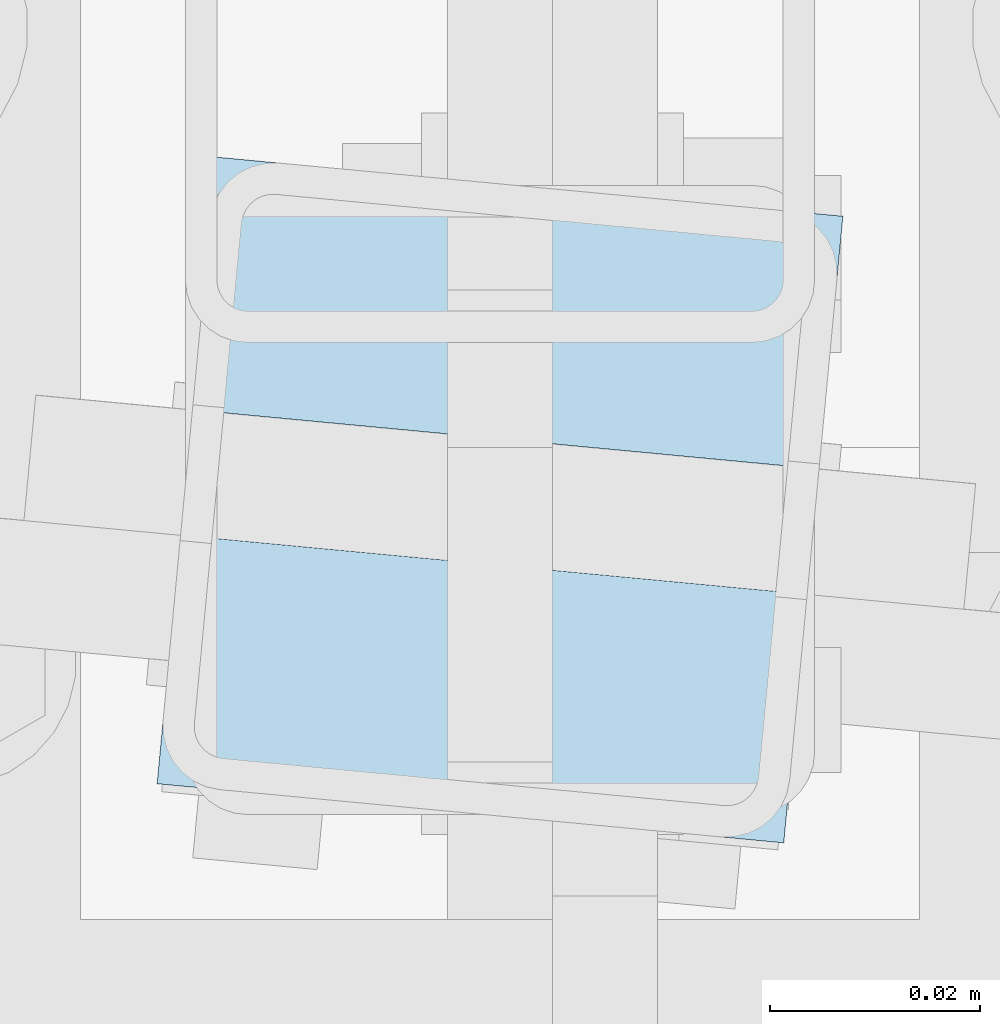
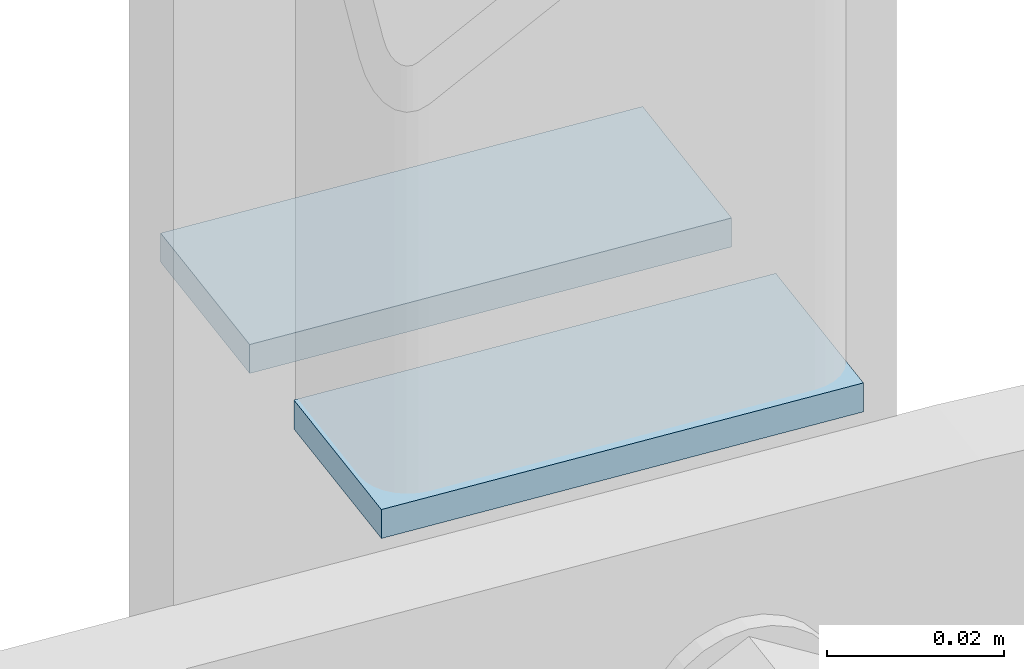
# One storey, part 208 of 271: 2 plates, 1 element without a shape of its own.
"""IFC2X3 building model written with IfcOpenShell, lengths in millimetres."""

from ifc_helpers import new_model, si_unit, frame, origin_with_axes, place, context, subcontext, project, spatial, polyline, outline, extrude, material, type_object, element, aggregate, save


model = new_model("IFC2X3")

# Units and contexts
model_context = context("Model", 3, precision=1e-05, world=origin_with_axes())
body_context = subcontext(model_context, "Body", "Model", "MODEL_VIEW")
ifc_project = project(units=[si_unit("LENGTHUNIT", "METRE", prefix="MILLI"), si_unit("AREAUNIT", "SQUARE_METRE"), si_unit("VOLUMEUNIT", "CUBIC_METRE"), si_unit("MASSUNIT", "GRAM", prefix="KILO"), si_unit("TIMEUNIT", "SECOND"), si_unit("PLANEANGLEUNIT", "RADIAN"), si_unit("SOLIDANGLEUNIT", "STERADIAN"), si_unit("THERMODYNAMICTEMPERATUREUNIT", "DEGREE_CELSIUS"), si_unit("LUMINOUSINTENSITYUNIT", "LUMEN")], contexts=[model_context])

# Site, building, storey
site_placement = place(None, origin_with_axes())
site = spatial("IfcSite", under=ifc_project, at=site_placement, Name="Undefined", CompositionType="ELEMENT")
building_placement = place(site_placement, origin_with_axes())
building = spatial("IfcBuilding", under=site, at=building_placement, Name="Undefined", CompositionType="ELEMENT")
storey_placement = place(building_placement, origin_with_axes())
storey = spatial("IfcBuildingStorey", under=building, at=storey_placement, Name="Undefined", CompositionType="ELEMENT", Elevation=0.0)

# Assembly, plates
assembly_placement = place(storey_placement, origin_with_axes())
assembly = element("IfcElementAssembly", 1, at=assembly_placement, inside=storey, AssemblyPlace="NOTDEFINED", PredefinedType="RIGID_FRAME")
ifc_material = material(Name="STEEL/S355JR")
plate_type = type_object("IfcPlateType", Name="BL4*24", PredefinedType="NOTDEFINED")
plate_1_placement = place(assembly_placement, frame((3141.32565493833, 4038.01043980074, 1574.66261887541), z_axis=(0.0, 0.0, 1.0), x_axis=(-0.0939225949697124, -0.995579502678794, 0.0)))
plate_1 = element("IfcPlate", 2, at=plate_1_placement, type_object=plate_type, material=ifc_material, Name="BLACHA", ObjectType="BL4*24", context=body_context, shape_type="SweptSolid", body=[
    extrude(outline(polyline([(0.0, 0.0), (24.1996459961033, 3.63797880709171e-12), (24.1996459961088, 60.0007209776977), (9.09494701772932e-13, 60.0007209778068), (0.0, 0.0)])), frame((0.0, 0.0, -2.0), z_axis=(0.0, 0.0, 1.0), x_axis=(1.0, 0.0, 0.0)), (0.0, 0.0, 1.0), 4.0),
])
plate_2_placement = place(assembly_placement, frame((3137.92569021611, 4001.9708138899, 1574.66261887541), z_axis=(0.0, 0.0, 1.0), x_axis=(-0.0939225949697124, -0.995579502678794, 0.0)))
plate_2 = element("IfcPlate", 3, at=plate_2_placement, type_object=plate_type, material=ifc_material, Name="BLACHA", ObjectType="BL4*24", context=body_context, shape_type="SweptSolid", body=[
    extrude(outline(polyline([(0.0, 0.0), (23.8010749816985, 5.45696821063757e-12), (23.8010749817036, 60.0007209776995), (9.09494701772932e-13, 60.0007209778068), (0.0, 0.0)])), frame((0.0, 0.0, -2.0), z_axis=(0.0, 0.0, 1.0), x_axis=(1.0, 0.0, 0.0)), (0.0, 0.0, 1.0), 4.0),
])
aggregate(assembly, [plate_1, plate_2])

save(model, "model.ifc")
